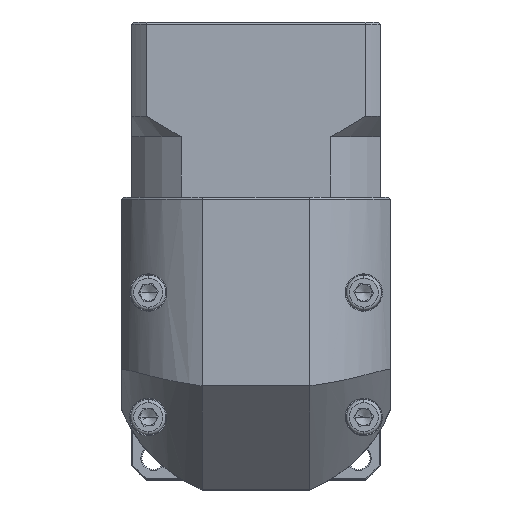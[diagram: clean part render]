
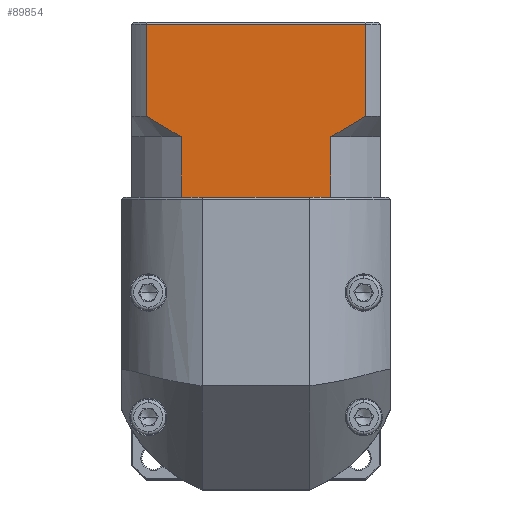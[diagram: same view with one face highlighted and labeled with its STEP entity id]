
A CAD part, top view. The second image highlights one B-rep face of the part: STEP entity #89854.
In plain terms, the highlighted planar face has unit normal (0, 0, 1).
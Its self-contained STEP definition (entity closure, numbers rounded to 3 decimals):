
#365 = CARTESIAN_POINT ( 'NONE',  ( -31.274, 106.946, 66.299 ) ) ;
#483 = CARTESIAN_POINT ( 'NONE',  ( -75.759, 111.946, 66.299 ) ) ;
#858 = CARTESIAN_POINT ( 'NONE',  ( -79.302, 92.446, 66.299 ) ) ;
#4001 = VECTOR ( 'NONE', #107518, 1000. ) ;
#7070 = VECTOR ( 'NONE', #88245, 1000. ) ;
#7345 = EDGE_CURVE ( 'NONE', #57874, #130870, #103552, .T. ) ;
#8434 = ORIENTED_EDGE ( 'NONE', *, *, #9027, .F. ) ;
#9027 = EDGE_CURVE ( 'NONE', #52984, #119399, #38856, .T. ) ;
#9494 = VERTEX_POINT ( 'NONE', #64919 ) ;
#9777 = CARTESIAN_POINT ( 'NONE',  ( -68.781, 107.694, 66.299 ) ) ;
#10234 = LINE ( 'NONE', #112357, #7070 ) ;
#12635 = CARTESIAN_POINT ( 'NONE',  ( -22.844, 111.946, 66.299 ) ) ;
#15145 = EDGE_CURVE ( 'NONE', #57874, #95365, #22971, .T. ) ;
#18701 = CARTESIAN_POINT ( 'NONE',  ( -28.392, 108.497, 66.299 ) ) ;
#22971 = LINE ( 'NONE', #106383, #71076 ) ;
#25610 = DIRECTION ( 'NONE',  ( 0., 0., -1. ) ) ;
#30551 = ORIENTED_EDGE ( 'NONE', *, *, #37740, .T. ) ;
#30798 = VECTOR ( 'NONE', #79201, 1000. ) ;
#33215 = DIRECTION ( 'NONE',  ( 0., 1., 0. ) ) ;
#33658 = ORIENTED_EDGE ( 'NONE', *, *, #53912, .F. ) ;
#37503 = CARTESIAN_POINT ( 'NONE',  ( -79.302, 92.446, 66.299 ) ) ;
#37740 = EDGE_CURVE ( 'NONE', #104198, #9494, #123299, .T. ) ;
#38856 = LINE ( 'NONE', #80235, #130203 ) ;
#38968 = ORIENTED_EDGE ( 'NONE', *, *, #116650, .T. ) ;
#41071 = CARTESIAN_POINT ( 'NONE',  ( -22.844, 111.946, 66.299 ) ) ;
#43575 = LINE ( 'NONE', #52101, #93273 ) ;
#44441 = PLANE ( 'NONE',  #93009 ) ;
#45391 = EDGE_CURVE ( 'NONE', #52984, #130870, #66813, .T. ) ;
#45393 = ORIENTED_EDGE ( 'NONE', *, *, #7345, .F. ) ;
#51427 = DIRECTION ( 'NONE',  ( 1., 0., 0. ) ) ;
#52101 = CARTESIAN_POINT ( 'NONE',  ( -67.329, 106.946, 66.299 ) ) ;
#52393 = CARTESIAN_POINT ( 'NONE',  ( -70.213, 108.498, 66.299 ) ) ;
#52984 = VERTEX_POINT ( 'NONE', #58551 ) ;
#53699 = CARTESIAN_POINT ( 'NONE',  ( -75.759, 111.946, 66.299 ) ) ;
#53912 = EDGE_CURVE ( 'NONE', #104198, #95365, #64947, .T. ) ;
#54689 = CARTESIAN_POINT ( 'NONE',  ( -75.759, 134.146, 66.299 ) ) ;
#57847 = DIRECTION ( 'NONE',  ( 0., -1., 0. ) ) ;
#57874 = VERTEX_POINT ( 'NONE', #91264 ) ;
#58551 = CARTESIAN_POINT ( 'NONE',  ( -31.274, 106.946, 66.299 ) ) ;
#59524 = ORIENTED_EDGE ( 'NONE', *, *, #45391, .T. ) ;
#62515 = EDGE_CURVE ( 'NONE', #112379, #119399, #100014, .T. ) ;
#64919 = CARTESIAN_POINT ( 'NONE',  ( -67.329, 106.946, 66.299 ) ) ;
#64947 = LINE ( 'NONE', #106197, #4001 ) ;
#66396 = CARTESIAN_POINT ( 'NONE',  ( -79.302, 134.646, 66.299 ) ) ;
#66672 = VERTEX_POINT ( 'NONE', #96752 ) ;
#66813 = B_SPLINE_CURVE_WITH_KNOTS ( 'NONE', 3,
 ( #365, #72005, #18701, #121603, #102395, #41071 ),
 .UNSPECIFIED., .F., .F.,
 ( 4, 2, 4 ),
 ( 0.1, 0.104, 0.109 ),
 .UNSPECIFIED. ) ;
#69931 = CARTESIAN_POINT ( 'NONE',  ( -32.265, 92.446, 66.299 ) ) ;
#71076 = VECTOR ( 'NONE', #76399, 1000. ) ;
#72005 = CARTESIAN_POINT ( 'NONE',  ( -29.817, 107.696, 66.299 ) ) ;
#76359 = FACE_OUTER_BOUND ( 'NONE', #108378, .T. ) ;
#76399 = DIRECTION ( 'NONE',  ( -1., 0., 0. ) ) ;
#78186 = ORIENTED_EDGE ( 'NONE', *, *, #79259, .T. ) ;
#79201 = DIRECTION ( 'NONE',  ( 1., 0., 0. ) ) ;
#79259 = EDGE_CURVE ( 'NONE', #88587, #112379, #10234, .T. ) ;
#79807 = ORIENTED_EDGE ( 'NONE', *, *, #122875, .F. ) ;
#80235 = CARTESIAN_POINT ( 'NONE',  ( -31.274, 106.946, 66.299 ) ) ;
#81761 = CARTESIAN_POINT ( 'NONE',  ( -31.274, 92.446, 66.299 ) ) ;
#85360 = LINE ( 'NONE', #37503, #30798 ) ;
#87663 = VECTOR ( 'NONE', #104963, 1000. ) ;
#88245 = DIRECTION ( 'NONE',  ( 1., 0., 0. ) ) ;
#88455 = ORIENTED_EDGE ( 'NONE', *, *, #15145, .T. ) ;
#88587 = VERTEX_POINT ( 'NONE', #110265 ) ;
#89854 = ADVANCED_FACE ( 'NONE', ( #76359 ), #44441, .F. ) ;
#91264 = CARTESIAN_POINT ( 'NONE',  ( -22.844, 134.146, 66.299 ) ) ;
#93009 = AXIS2_PLACEMENT_3D ( 'NONE', #66396, #25610, #106665 ) ;
#93273 = VECTOR ( 'NONE', #33215, 1000. ) ;
#94626 = CARTESIAN_POINT ( 'NONE',  ( -22.844, 106.946, 66.299 ) ) ;
#95365 = VERTEX_POINT ( 'NONE', #54689 ) ;
#96752 = CARTESIAN_POINT ( 'NONE',  ( -67.329, 92.446, 66.299 ) ) ;
#100014 = LINE ( 'NONE', #858, #107990 ) ;
#102395 = CARTESIAN_POINT ( 'NONE',  ( -24.207, 111.045, 66.299 ) ) ;
#103401 = CARTESIAN_POINT ( 'NONE',  ( -74.399, 111.047, 66.299 ) ) ;
#103552 = LINE ( 'NONE', #94626, #87663 ) ;
#104198 = VERTEX_POINT ( 'NONE', #53699 ) ;
#104963 = DIRECTION ( 'NONE',  ( 0., -1., 0. ) ) ;
#106197 = CARTESIAN_POINT ( 'NONE',  ( -75.759, 106.946, 66.299 ) ) ;
#106383 = CARTESIAN_POINT ( 'NONE',  ( -79.302, 134.146, 66.299 ) ) ;
#106665 = DIRECTION ( 'NONE',  ( 0., 1., 0. ) ) ;
#107518 = DIRECTION ( 'NONE',  ( 0., 1., 0. ) ) ;
#107990 = VECTOR ( 'NONE', #51427, 1000. ) ;
#108378 = EDGE_LOOP ( 'NONE', ( #45393, #88455, #33658, #30551, #79807, #38968, #78186, #117248, #8434, #59524 ) ) ;
#110265 = CARTESIAN_POINT ( 'NONE',  ( -66.338, 92.446, 66.299 ) ) ;
#112357 = CARTESIAN_POINT ( 'NONE',  ( -79.302, 92.446, 66.299 ) ) ;
#112379 = VERTEX_POINT ( 'NONE', #69931 ) ;
#113651 = CARTESIAN_POINT ( 'NONE',  ( -73.021, 110.173, 66.299 ) ) ;
#116650 = EDGE_CURVE ( 'NONE', #66672, #88587, #85360, .T. ) ;
#117248 = ORIENTED_EDGE ( 'NONE', *, *, #62515, .T. ) ;
#119399 = VERTEX_POINT ( 'NONE', #81761 ) ;
#121603 = CARTESIAN_POINT ( 'NONE',  ( -25.587, 110.171, 66.299 ) ) ;
#122875 = EDGE_CURVE ( 'NONE', #66672, #9494, #43575, .T. ) ;
#123299 = B_SPLINE_CURVE_WITH_KNOTS ( 'NONE', 3,
 ( #483, #103401, #113651, #52393, #9777, #123972 ),
 .UNSPECIFIED., .F., .F.,
 ( 4, 2, 4 ),
 ( 0.052, 0.057, 0.062 ),
 .UNSPECIFIED. ) ;
#123972 = CARTESIAN_POINT ( 'NONE',  ( -67.329, 106.946, 66.299 ) ) ;
#130203 = VECTOR ( 'NONE', #57847, 1000. ) ;
#130870 = VERTEX_POINT ( 'NONE', #12635 ) ;
